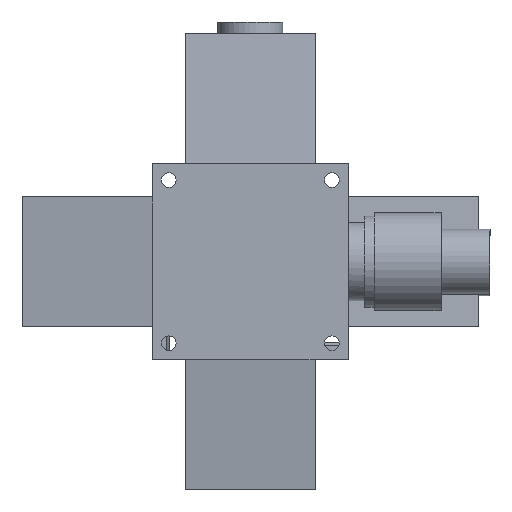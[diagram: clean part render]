
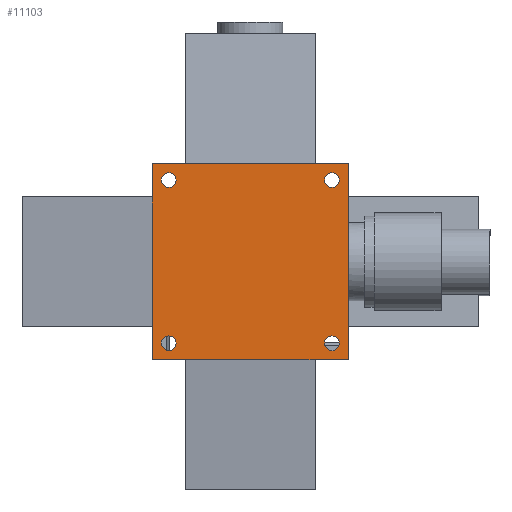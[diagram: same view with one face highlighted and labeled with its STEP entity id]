
A CAD part, front view. The second image highlights one B-rep face of the part: STEP entity #11103.
In plain terms, the highlighted planar face has unit normal (0, -1, 0).
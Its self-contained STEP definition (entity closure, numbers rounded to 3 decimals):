
#1851 = DIRECTION ( 'NONE',  ( 0., 0., 1. ) ) ;
#1852 = DIRECTION ( 'NONE',  ( 0., 1., 0. ) ) ;
#1853 = AXIS2_PLACEMENT_3D ( 'NONE', #1859, #1852, #1851 ) ;
#1854 = CIRCLE ( 'NONE', #1853, 2.25 ) ;
#1859 = CARTESIAN_POINT ( 'NONE',  ( 25., 0., 25. ) ) ;
#1867 = DIRECTION ( 'NONE',  ( 0., 0., 1. ) ) ;
#1868 = DIRECTION ( 'NONE',  ( 0., 1., 0. ) ) ;
#1869 = CARTESIAN_POINT ( 'NONE',  ( 30., 0., -30. ) ) ;
#1870 = AXIS2_PLACEMENT_3D ( 'NONE', #1869, #1868, #1867 ) ;
#1871 = PLANE ( 'NONE',  #1870 ) ;
#1872 = FACE_OUTER_BOUND ( 'NONE', #3578, .T. ) ;
#1873 = FACE_BOUND ( 'NONE', #3575, .T. ) ;
#1874 = FACE_BOUND ( 'NONE', #11192, .T. ) ;
#1875 = FACE_BOUND ( 'NONE', #11189, .T. ) ;
#1876 = FACE_BOUND ( 'NONE', #11104, .T. ) ;
#1986 = CARTESIAN_POINT ( 'NONE',  ( -30., 0., -30. ) ) ;
#1987 = CARTESIAN_POINT ( 'NONE',  ( -30., 0., 30. ) ) ;
#1988 = DIRECTION ( 'NONE',  ( 0., 0., -1. ) ) ;
#1989 = VECTOR ( 'NONE', #1988, 1000. ) ;
#1990 = CARTESIAN_POINT ( 'NONE',  ( -30., 0., -30. ) ) ;
#1991 = LINE ( 'NONE', #1990, #1989 ) ;
#1992 = DIRECTION ( 'NONE',  ( 0., 0., 1. ) ) ;
#1993 = DIRECTION ( 'NONE',  ( 0., 1., 0. ) ) ;
#1994 = CARTESIAN_POINT ( 'NONE',  ( 25., 0., -25. ) ) ;
#1995 = AXIS2_PLACEMENT_3D ( 'NONE', #1994, #1993, #1992 ) ;
#2000 = CIRCLE ( 'NONE', #1995, 2.25 ) ;
#2003 = DIRECTION ( 'NONE',  ( 0., 0., 1. ) ) ;
#2004 = DIRECTION ( 'NONE',  ( 0., 1., 0. ) ) ;
#2005 = CARTESIAN_POINT ( 'NONE',  ( -25., 0., -25. ) ) ;
#2006 = AXIS2_PLACEMENT_3D ( 'NONE', #2005, #2004, #2003 ) ;
#2007 = CIRCLE ( 'NONE', #2006, 2.25 ) ;
#2092 = CARTESIAN_POINT ( 'NONE',  ( 25., 0., 27.25 ) ) ;
#2093 = CARTESIAN_POINT ( 'NONE',  ( 25., 0., 22.75 ) ) ;
#2094 = DIRECTION ( 'NONE',  ( 0., 0., 1. ) ) ;
#2095 = DIRECTION ( 'NONE',  ( 0., 1., 0. ) ) ;
#2096 = CARTESIAN_POINT ( 'NONE',  ( 25., 0., 25. ) ) ;
#2097 = AXIS2_PLACEMENT_3D ( 'NONE', #2096, #2095, #2094 ) ;
#2098 = CIRCLE ( 'NONE', #2097, 2.25 ) ;
#2105 = CIRCLE ( 'NONE', #2168, 2.25 ) ;
#2165 = DIRECTION ( 'NONE',  ( 0., 0., 1. ) ) ;
#2166 = DIRECTION ( 'NONE',  ( 0., 1., 0. ) ) ;
#2167 = CARTESIAN_POINT ( 'NONE',  ( -25., 0., 25. ) ) ;
#2168 = AXIS2_PLACEMENT_3D ( 'NONE', #2167, #2166, #2165 ) ;
#2235 = CARTESIAN_POINT ( 'NONE',  ( -25., 0., -25. ) ) ;
#2252 = CARTESIAN_POINT ( 'NONE',  ( 25., 0., -22.75 ) ) ;
#2253 = CARTESIAN_POINT ( 'NONE',  ( 25., 0., -27.25 ) ) ;
#2254 = DIRECTION ( 'NONE',  ( 0., 0., 1. ) ) ;
#2255 = DIRECTION ( 'NONE',  ( 0., 1., 0. ) ) ;
#2256 = CARTESIAN_POINT ( 'NONE',  ( 25., 0., -25. ) ) ;
#2257 = AXIS2_PLACEMENT_3D ( 'NONE', #2256, #2255, #2254 ) ;
#2258 = CIRCLE ( 'NONE', #2257, 2.25 ) ;
#2291 = CARTESIAN_POINT ( 'NONE',  ( -25., 0., -27.25 ) ) ;
#2292 = DIRECTION ( 'NONE',  ( 0., 0., 1. ) ) ;
#2293 = DIRECTION ( 'NONE',  ( 0., 1., 0. ) ) ;
#2294 = AXIS2_PLACEMENT_3D ( 'NONE', #2235, #2293, #2292 ) ;
#2295 = CIRCLE ( 'NONE', #2294, 2.25 ) ;
#2370 = CARTESIAN_POINT ( 'NONE',  ( -25., 0., 27.25 ) ) ;
#2381 = CARTESIAN_POINT ( 'NONE',  ( -25., 0., 22.75 ) ) ;
#2382 = DIRECTION ( 'NONE',  ( 0., 0., 1. ) ) ;
#2383 = DIRECTION ( 'NONE',  ( 0., 1., 0. ) ) ;
#2384 = AXIS2_PLACEMENT_3D ( 'NONE', #2407, #2383, #2382 ) ;
#2385 = CIRCLE ( 'NONE', #2384, 2.25 ) ;
#2407 = CARTESIAN_POINT ( 'NONE',  ( -25., 0., 25. ) ) ;
#2424 = CARTESIAN_POINT ( 'NONE',  ( -25., 0., -22.75 ) ) ;
#3575 = EDGE_LOOP ( 'NONE', ( #3576, #3577 ) ) ;
#3576 = ORIENTED_EDGE ( 'NONE', *, *, #11196, .T. ) ;
#3577 = ORIENTED_EDGE ( 'NONE', *, *, #11309, .T. ) ;
#3578 = EDGE_LOOP ( 'NONE', ( #3579, #3582, #3585, #3587 ) ) ;
#3579 = ORIENTED_EDGE ( 'NONE', *, *, #3580, .T. ) ;
#3580 = EDGE_CURVE ( 'NONE', #11094, #3581, #7669, .T. ) ;
#3581 = VERTEX_POINT ( 'NONE', #7665 ) ;
#3582 = ORIENTED_EDGE ( 'NONE', *, *, #3583, .T. ) ;
#3583 = EDGE_CURVE ( 'NONE', #3581, #3584, #7664, .T. ) ;
#3584 = VERTEX_POINT ( 'NONE', #7660 ) ;
#3585 = ORIENTED_EDGE ( 'NONE', *, *, #3586, .T. ) ;
#3586 = EDGE_CURVE ( 'NONE', #3584, #11093, #7659, .T. ) ;
#3587 = ORIENTED_EDGE ( 'NONE', *, *, #11092, .T. ) ;
#7656 = DIRECTION ( 'NONE',  ( -1., 0., 0. ) ) ;
#7657 = VECTOR ( 'NONE', #7656, 1000. ) ;
#7658 = CARTESIAN_POINT ( 'NONE',  ( 30., 0., 30. ) ) ;
#7659 = LINE ( 'NONE', #7658, #7657 ) ;
#7660 = CARTESIAN_POINT ( 'NONE',  ( 30., 0., 30. ) ) ;
#7661 = DIRECTION ( 'NONE',  ( 0., 0., 1. ) ) ;
#7662 = VECTOR ( 'NONE', #7661, 1000. ) ;
#7663 = CARTESIAN_POINT ( 'NONE',  ( 30., 0., -30. ) ) ;
#7664 = LINE ( 'NONE', #7663, #7662 ) ;
#7665 = CARTESIAN_POINT ( 'NONE',  ( 30., 0., -30. ) ) ;
#7666 = DIRECTION ( 'NONE',  ( 1., 0., 0. ) ) ;
#7667 = VECTOR ( 'NONE', #7666, 1000. ) ;
#7668 = CARTESIAN_POINT ( 'NONE',  ( 30., 0., -30. ) ) ;
#7669 = LINE ( 'NONE', #7668, #7667 ) ;
#11084 = EDGE_CURVE ( 'NONE', #11297, #11258, #2007, .T. ) ;
#11091 = EDGE_CURVE ( 'NONE', #11245, #11244, #2000, .T. ) ;
#11092 = EDGE_CURVE ( 'NONE', #11093, #11094, #1991, .T. ) ;
#11093 = VERTEX_POINT ( 'NONE', #1987 ) ;
#11094 = VERTEX_POINT ( 'NONE', #1986 ) ;
#11103 = ADVANCED_FACE ( 'NONE', ( #1876, #1875, #1874, #1873, #1872 ), #1871, .F. ) ;
#11104 = EDGE_LOOP ( 'NONE', ( #11105, #11106 ) ) ;
#11105 = ORIENTED_EDGE ( 'NONE', *, *, #11114, .T. ) ;
#11106 = ORIENTED_EDGE ( 'NONE', *, *, #11277, .T. ) ;
#11114 = EDGE_CURVE ( 'NONE', #11279, #11278, #1854, .T. ) ;
#11189 = EDGE_LOOP ( 'NONE', ( #11190, #11191 ) ) ;
#11190 = ORIENTED_EDGE ( 'NONE', *, *, #11091, .T. ) ;
#11191 = ORIENTED_EDGE ( 'NONE', *, *, #11243, .T. ) ;
#11192 = EDGE_LOOP ( 'NONE', ( #11193, #11194 ) ) ;
#11193 = ORIENTED_EDGE ( 'NONE', *, *, #11084, .T. ) ;
#11194 = ORIENTED_EDGE ( 'NONE', *, *, #11257, .T. ) ;
#11196 = EDGE_CURVE ( 'NONE', #11315, #11310, #2105, .T. ) ;
#11243 = EDGE_CURVE ( 'NONE', #11244, #11245, #2258, .T. ) ;
#11244 = VERTEX_POINT ( 'NONE', #2253 ) ;
#11245 = VERTEX_POINT ( 'NONE', #2252 ) ;
#11257 = EDGE_CURVE ( 'NONE', #11258, #11297, #2295, .T. ) ;
#11258 = VERTEX_POINT ( 'NONE', #2291 ) ;
#11277 = EDGE_CURVE ( 'NONE', #11278, #11279, #2098, .T. ) ;
#11278 = VERTEX_POINT ( 'NONE', #2093 ) ;
#11279 = VERTEX_POINT ( 'NONE', #2092 ) ;
#11297 = VERTEX_POINT ( 'NONE', #2424 ) ;
#11309 = EDGE_CURVE ( 'NONE', #11310, #11315, #2385, .T. ) ;
#11310 = VERTEX_POINT ( 'NONE', #2381 ) ;
#11315 = VERTEX_POINT ( 'NONE', #2370 ) ;
